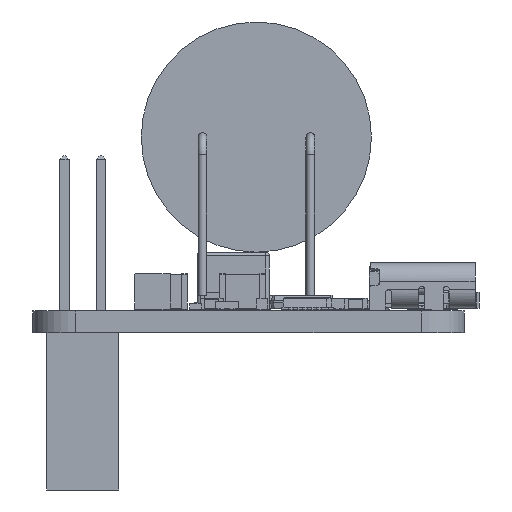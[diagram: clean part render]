
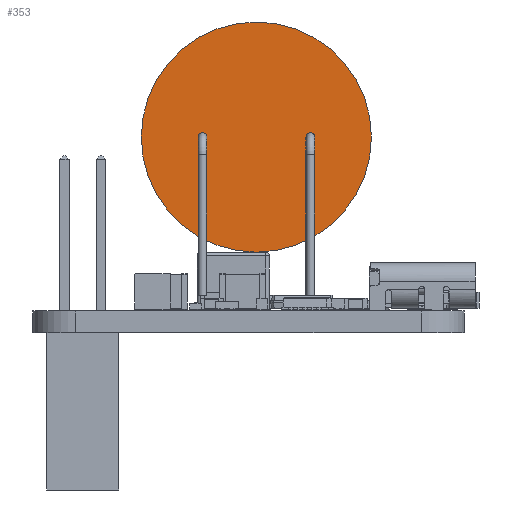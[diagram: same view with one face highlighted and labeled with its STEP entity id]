
A CAD part, left-side view. The second image highlights one B-rep face of the part: STEP entity #353.
In plain terms, the highlighted planar face has unit normal (-1, 0, 0) as drawn and (0, 0, -1) by its records, which use the part's own axes.
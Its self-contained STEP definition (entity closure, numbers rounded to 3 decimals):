
#324 = EDGE_CURVE('',#325,#325,#327,.T.);
#325 = VERTEX_POINT('',#326);
#326 = CARTESIAN_POINT('',(8.,0.,0.));
#327 = CIRCLE('',#328,8.);
#328 = AXIS2_PLACEMENT_3D('',#329,#330,#331);
#329 = CARTESIAN_POINT('',(0.,0.,0.));
#330 = DIRECTION('',(0.,0.,1.));
#331 = DIRECTION('',(1.,0.,-0.));
#353 = ADVANCED_FACE('',(#354),#357,.F.);
#354 = FACE_BOUND('',#355,.T.);
#355 = EDGE_LOOP('',(#356));
#356 = ORIENTED_EDGE('',*,*,#324,.F.);
#357 = PLANE('',#358);
#358 = AXIS2_PLACEMENT_3D('',#359,#360,#361);
#359 = CARTESIAN_POINT('',(0.,0.,0.));
#360 = DIRECTION('',(0.,0.,1.));
#361 = DIRECTION('',(1.,0.,-0.));
